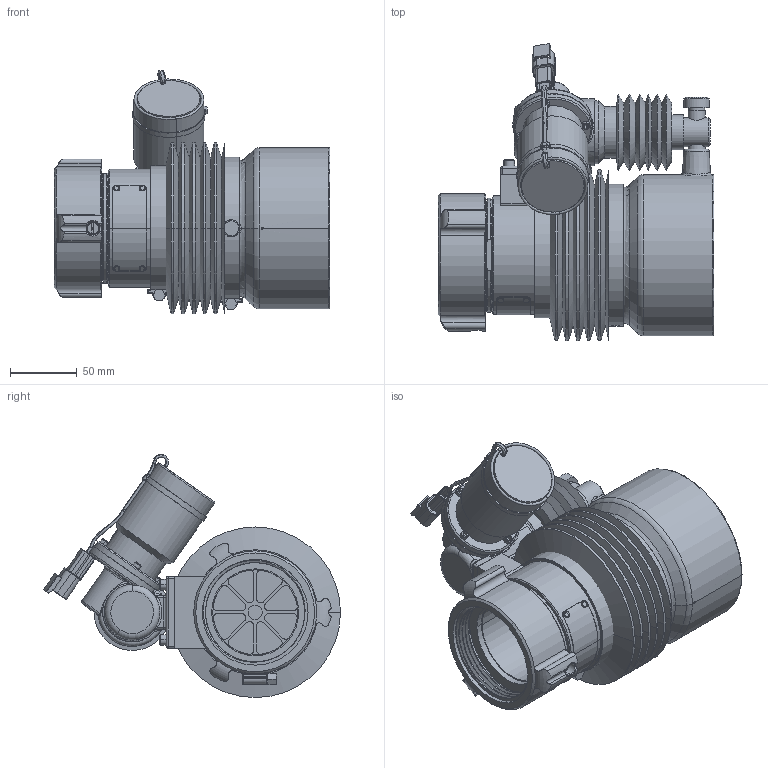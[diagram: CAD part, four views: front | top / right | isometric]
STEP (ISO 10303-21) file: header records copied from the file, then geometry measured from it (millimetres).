
FILE_DESCRIPTION((''),'2;1');
FILE_NAME('D44171_SW0001','2015-08-06T',('jhabe'),(''),'PRO/ENGINEER BY PARAMETRIC TECHNOLOGY CORPORATION, 2011310','PRO/ENGINEER BY PARAMETRIC TECHNOLOGY CORPORATION, 2011310','');
FILE_SCHEMA(('CONFIG_CONTROL_DESIGN'));
Length unit declared in the file: inch
Products named in the file (1): D44171_SW0001
Bounding box: 206.58 x 222.35 x 182.11 mm (x, y, z)
Surface area: 361447.7 mm2 (no closed solid volume)
Topology: 0 solids, 58 shells, 1014 faces, 2704 edges, 1742 vertices
Faces by surface type: cylinder 353, plane 328, cone 133, bspline 97, torus 86, sphere 15, extrusion 2
Entity records: 43350 total; most frequent: CARTESIAN_POINT 18756, DIRECTION 5092, ORIENTED_EDGE 4937, EDGE_CURVE 2700, AXIS2_PLACEMENT_3D 1960, VERTEX_POINT 1742, VECTOR 1172, LINE 1170
